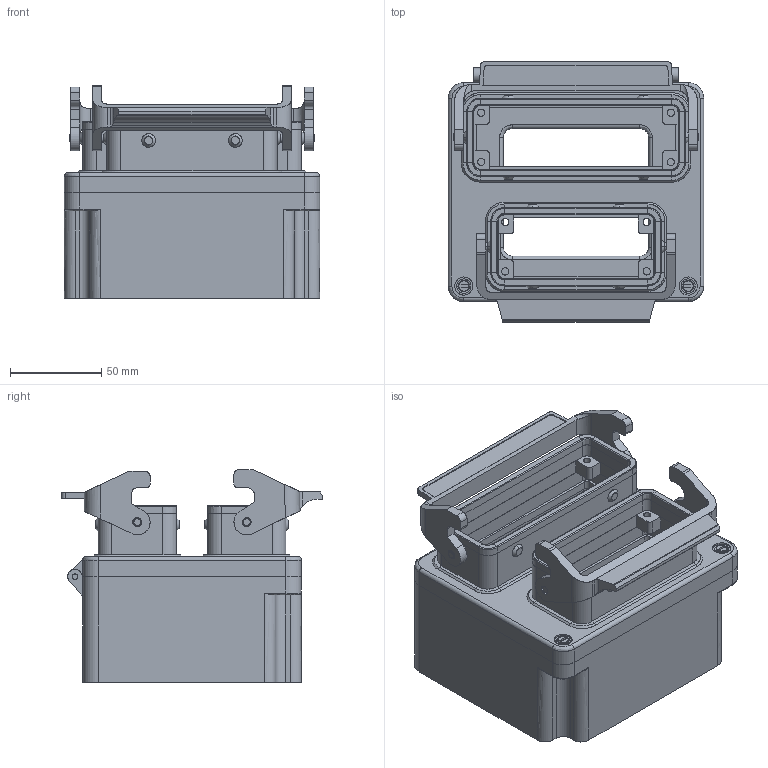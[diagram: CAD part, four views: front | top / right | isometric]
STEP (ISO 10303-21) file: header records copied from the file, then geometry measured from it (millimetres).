
FILE_DESCRIPTION( ( 'STEP AP214' ), '1' );
FILE_NAME( 'C:/Dokumente und Einstellungen/Administrator/Desktop/47 Kabelboxen/G3/21/gr_3_24e_16e-bb.stp', '2006-09-10T19:25:51', ( ' ' ), ( ' ' ), 'XStep 1.0', 'VISICAD', ' ' );
FILE_SCHEMA( ( 'automotive_design' ) );
Length unit declared in the file: millimetre
Products named in the file (1146): 1; 2; 3; 4; 5; 6; 7; 8; 9; 10; 11; 12; 13; 14; 15; 16; 17; 18; 19; 20; 21; 22; 23; 24; 25; 26; 27; 28; 29; 30; 31; 32; 33; 34; 35; 36; 37; 38; 39; 40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
Bounding box: 140 x 142.98 x 116.7 mm (x, y, z)
Surface area: 184161.4 mm2 (no closed solid volume)
Topology: 0 solids, 1156 shells, 1156 faces, 5753 edges, 5753 vertices
Faces by surface type: plane 564, bspline 418, revolution 128, cylinder 46
Entity records: 128723 total; most frequent: CARTESIAN_POINT 61041, DIRECTION 7735, ORIENTED_EDGE 5753, EDGE_CURVE 5753, VERTEX_POINT 5753, LINE 3251, VECTOR 3251, B_SPLINE_CURVE_WITH_KNOTS 2192
